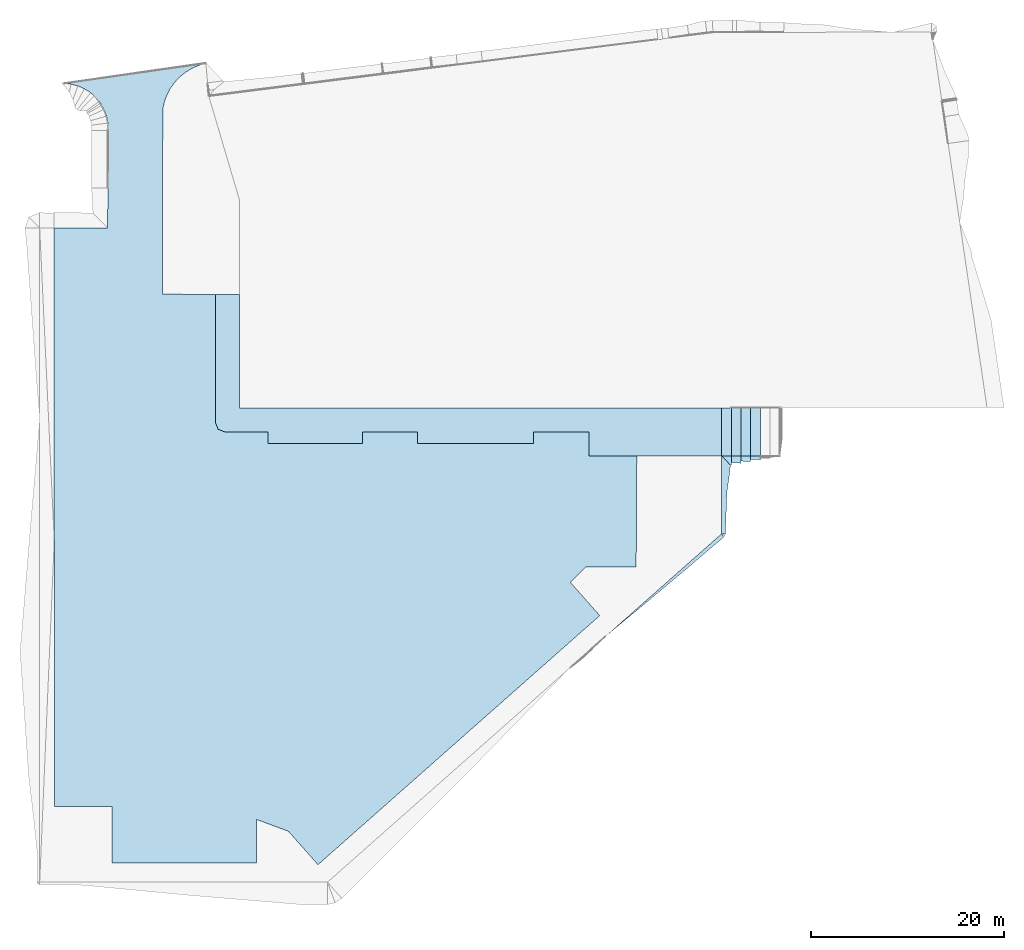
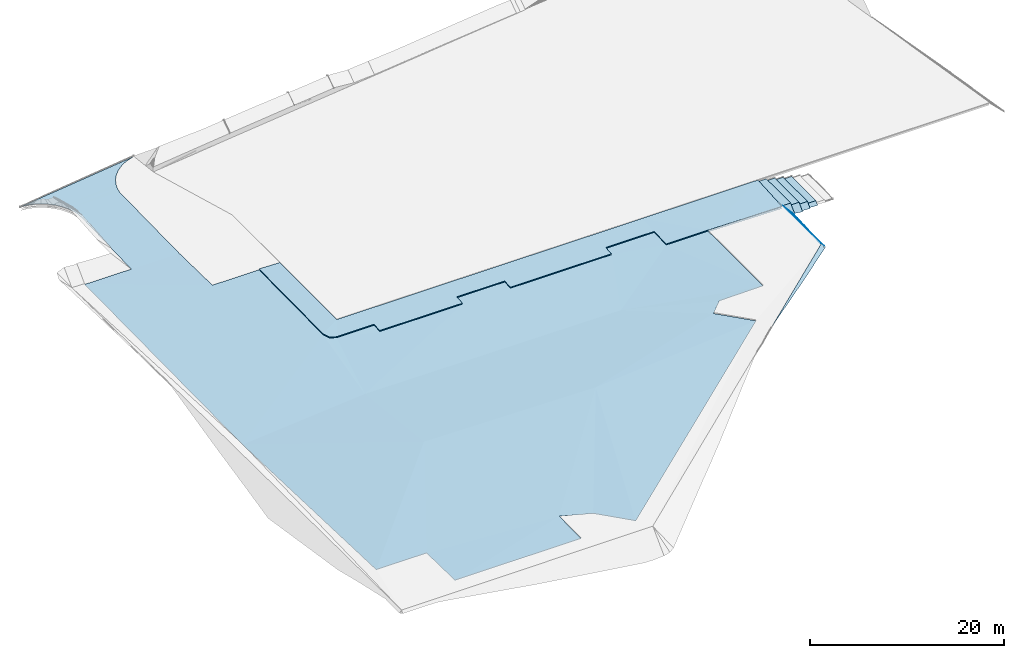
# One storey, part 2 of 14: 14 slabs.
"""IFC2X3 building model written with IfcOpenShell, lengths in metres."""

import ifcopenshell
import ifcopenshell.guid

model = None  # the IFC model being written
_history = None  # IfcOwnerHistory: only IFC2X3 demands one
_inside = {}  # id of a spatial element -> (the spatial element, [elements in it])
_under = {}  # id of a project, library or spatial element -> (it, [spatial elements below it])
_declared = {}  # id of a project -> (the project, [libraries it declares])
_typed = {}  # id of a type object -> (the type object, [elements of that type])
_made_of = {}  # id of a material, layer set ... -> (it, [elements and type objects made of it])


def new_model(schema):
    """Start an empty IFC model of exactly this schema.

    Asked for "IFC4X3", IfcOpenShell would pick the latest addendum, in which some entities
    have other attributes; the version numbers below select the first issue.
    IFC2X3 requires an IfcOwnerHistory on every rooted entity: one is made here for all.
    """
    global model, _history
    if schema == "IFC4X3":
        model = ifcopenshell.file(schema_version=(4, 3, 0, 0))
    else:
        model = ifcopenshell.file(schema=schema)
    _inside.clear()
    _under.clear()
    _declared.clear()
    _typed.clear()
    _made_of.clear()
    _history = None
    if model.schema == "IFC2X3":
        org = make("IfcOrganization", Name="unknown")
        user = make(
            "IfcPersonAndOrganization",
            ThePerson=make("IfcPerson", FamilyName="unknown"),
            TheOrganization=org,
        )
        app = make(
            "IfcApplication",
            ApplicationDeveloper=org,
            Version="unknown",
            ApplicationFullName="unknown",
            ApplicationIdentifier="unknown",
        )
        _history = make(
            "IfcOwnerHistory",
            OwningUser=user,
            OwningApplication=app,
            ChangeAction="ADDED",
            CreationDate=0,
        )
    return model


def make(cls, **values):
    """One entity of the class cls with the attributes given. An attribute that is None is left unset."""
    return model.create_entity(
        cls, **{name: value for name, value in values.items() if value is not None}
    )


def rooted(cls, **values):
    """An entity with a GlobalId (a new one), such as an element, a storey or a relation."""
    return make(cls, GlobalId=ifcopenshell.guid.new(), OwnerHistory=_history, **values)


def si_unit(unit_type, name, prefix=None):
    """IfcSIUnit, for example si_unit("LENGTHUNIT", "METRE", prefix="MILLI")."""
    return make("IfcSIUnit", UnitType=unit_type, Prefix=prefix, Name=name)


def assignment(units):
    """IfcUnitAssignment: the units of a project."""
    return None if units is None else make("IfcUnitAssignment", Units=units)


def point(xyz):
    """IfcCartesianPoint."""
    return None if xyz is None else make("IfcCartesianPoint", Coordinates=xyz)


def direction(xyz):
    """IfcDirection."""
    return None if xyz is None else make("IfcDirection", DirectionRatios=xyz)


def frame(location, z_axis=None, x_axis=None):
    """IfcAxis2Placement3D, a coordinate frame: its origin and axes. An axis left out is left unset."""
    return make(
        "IfcAxis2Placement3D",
        Location=point(location),
        Axis=direction(z_axis),
        RefDirection=direction(x_axis),
    )


def origin():
    """The frame at (0, 0, 0) with its axes left unset."""
    return frame((0.0, 0.0, 0.0))


def origin_with_axes():
    """The frame at (0, 0, 0) with the z axis (0, 0, 1) and the x axis (1, 0, 0) written out."""
    return frame((0.0, 0.0, 0.0), z_axis=(0.0, 0.0, 1.0), x_axis=(1.0, 0.0, 0.0))


def place(relative_to, where):
    """IfcLocalPlacement: puts the frame where relative to a parent placement (None: the world)."""
    return make(
        "IfcLocalPlacement", PlacementRelTo=relative_to, RelativePlacement=where
    )


def context(
    kind, dimensions, precision=None, world=None, true_north=None, identifier=None
):
    """IfcGeometricRepresentationContext, for example the 3D "Model" context."""
    return make(
        "IfcGeometricRepresentationContext",
        ContextIdentifier=identifier,
        ContextType=kind,
        CoordinateSpaceDimension=dimensions,
        Precision=precision,
        WorldCoordinateSystem=world,
        TrueNorth=true_north,
    )


def subcontext(parent, identifier, kind, view, scale=None):
    """IfcGeometricRepresentationSubContext, for example "Body" below "Model"."""
    return make(
        "IfcGeometricRepresentationSubContext",
        ContextIdentifier=identifier,
        ContextType=kind,
        ParentContext=parent,
        TargetScale=scale,
        TargetView=view,
    )


def project(units=None, contexts=None):
    """IfcProject with its units and contexts."""
    return rooted(
        "IfcProject",
        Name="project",
        RepresentationContexts=contexts,
        UnitsInContext=assignment(units),
    )


def spatial(cls, under=None, at=None, **own):
    """A site, building, storey or space (cls), placed at a placement, below another one or the project."""
    s = rooted(cls, ObjectPlacement=at, **own)
    if under is not None:
        _under.setdefault(under.id(), (under, []))[1].append(s)
    return s


def faces_of(points, faces, orient=None, outer=None):
    """IfcFace entities. A face is a list of loops; a loop is a list of indices into points, from 0.

    orient and outer hold one flag for each loop. By default every Orientation is true, the
    first loop of a face is its IfcFaceOuterBound and the others are IfcFaceBound.
    """
    made = []
    for i, loops in enumerate(faces):
        bounds = []
        for j, loop in enumerate(loops):
            is_outer = j == 0 if outer is None else outer[i][j]
            bounds.append(
                make(
                    "IfcFaceOuterBound" if is_outer else "IfcFaceBound",
                    Bound=make("IfcPolyLoop", Polygon=[points[k] for k in loop]),
                    Orientation=True if orient is None else orient[i][j],
                )
            )
        made.append(make("IfcFace", Bounds=bounds))
    return made


def faceted_brep(points, faces, orient=None, outer=None, voids=None):
    """IfcFacetedBrep: a solid bounded by flat faces; with voids (closed shells), ...WithVoids."""
    shared = [point(p) for p in points]
    hull = make("IfcClosedShell", CfsFaces=faces_of(shared, faces, orient, outer))
    if voids is None:
        return make("IfcFacetedBrep", Outer=hull)
    return make(
        "IfcFacetedBrepWithVoids",
        Outer=hull,
        Voids=[
            make(cls, CfsFaces=faces_of(shared, fs, o, b)) for cls, fs, o, b in voids
        ],
    )


def shape(context_of_items, identifier, shape_type, items):
    """IfcShapeRepresentation: the items that make up one representation, for example the "Body"."""
    return make(
        "IfcShapeRepresentation",
        ContextOfItems=context_of_items,
        RepresentationIdentifier=identifier,
        RepresentationType=shape_type,
        Items=items,
    )


def made_of(thing, what):
    """Note that an element or type object is made of a material, layer set ...; save() writes the relation."""
    if what is not None:
        _made_of.setdefault(what.id(), (what, []))[1].append(thing)
    return thing


def element(
    cls,
    number,
    at=None,
    inside=None,
    cuts=None,
    type_object=None,
    material=None,
    context=None,
    identifier="Body",
    shape_type=None,
    held_by="IfcProductDefinitionShape",
    body=None,
    shapes=None,
    **own,
):
    """One element of the class cls, such as IfcWall. Its Tag is "e" and its number.

    at: its placement. inside: the storey or other place that contains it. cuts: it is an
    opening in that element (IfcRelVoidsElement). A single representation is given by context,
    identifier, shape_type and body (its items); several are given by shapes. held_by: the class
    of the entity that holds the representations. save() writes the other relations.
    """
    e = rooted(cls, Tag="e%d" % number, ObjectPlacement=at, **own)
    if body is not None:
        shapes = [shape(context, identifier, shape_type, body)]
    if shapes is not None:
        e.Representation = make(held_by, Representations=shapes)
    if inside is not None:
        _inside.setdefault(inside.id(), (inside, []))[1].append(e)
    if cuts is not None:
        rooted(
            "IfcRelVoidsElement", RelatingBuildingElement=cuts, RelatedOpeningElement=e
        )
    if type_object is not None:
        _typed.setdefault(type_object.id(), (type_object, []))[1].append(e)
    return made_of(e, material)


def aggregate(whole, parts):
    """IfcRelAggregates: a whole, such as a stair, and the parts it consists of."""
    return rooted("IfcRelAggregates", RelatingObject=whole, RelatedObjects=parts)


def save(model, path):
    """Write the relations noted so far, then the file.

    IfcRelAggregates (storeys below a building ...), IfcRelContainedInSpatialStructure (elements
    in a storey), IfcRelDefinesByType, IfcRelAssociatesMaterial and IfcRelDeclares: one each for
    every whole, place, type object, material and project.
    """
    for whole, parts in _under.values():
        aggregate(whole, parts)
    for where, things in _inside.values():
        rooted(
            "IfcRelContainedInSpatialStructure",
            RelatedElements=things,
            RelatingStructure=where,
        )
    for kind, things in _typed.values():
        rooted("IfcRelDefinesByType", RelatedObjects=things, RelatingType=kind)
    for what, things in _made_of.values():
        rooted("IfcRelAssociatesMaterial", RelatedObjects=things, RelatingMaterial=what)
    for by, libraries in _declared.values():
        rooted("IfcRelDeclares", RelatingContext=by, RelatedDefinitions=libraries)
    model.write(path)


model = new_model("IFC2X3")

# Units and contexts
context_of_model = context(None, 3, world=origin_with_axes())
sub_context = subcontext(context_of_model, None, None, "MODEL_VIEW")
ifc_project = project(units=[si_unit("LENGTHUNIT", "METRE"), si_unit("AREAUNIT", "SQUARE_METRE"), si_unit("VOLUMEUNIT", "CUBIC_METRE"), si_unit("PLANEANGLEUNIT", "RADIAN"), si_unit("MASSUNIT", "GRAM", prefix="KILO")])

# Site, building, storey
site_placement = place(None, origin_with_axes())
site = spatial("IfcSite", under=ifc_project, at=site_placement, Name="Site.1", CompositionType="ELEMENT")
building_placement = place(site_placement, origin())
building = spatial("IfcBuilding", under=site, at=building_placement, Name="Building.1", CompositionType="ELEMENT")
storey_placement = place(building_placement, origin())
storey = spatial("IfcBuildingStorey", under=building, at=storey_placement, Name="VRD", CompositionType="ELEMENT")

# Slabs
slab_1_placement = place(storey_placement, origin())
element("IfcSlab", 1, at=slab_1_placement, inside=storey, Name="PJ FINI n°2", PredefinedType="USERDEFINED", context=sub_context, shape_type="Brep", body=[
    faceted_brep([(-6.758434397, -26.892042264, 0.562221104), (-22.314534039, -43.995937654, 0.28), (-22.314534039, -16.435937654, -0.7), (-5.615808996, -4.155500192, -0.2), (-5.323119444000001, -4.863253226, -0.25), (-6.946675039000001, -15.037949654, -0.545686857), (23.557774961, -14.875221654, -0.8), (31.185465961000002, -20.725937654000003, -0.35), (13.467860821, -27.187748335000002, 0.5), (34.245465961, -24.185937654, -0.25), (-1.334534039, -45.325937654, 0.5), (-16.334534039, -49.825937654, 0.4), (-16.334534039, -43.995937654, 0.28), (-11.097854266, 9.133948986, -0.1), (9.665465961, -6.364934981, -0.35), (-0.158671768, -6.355126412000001, -0.35), (-4.615534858, -5.156349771, -0.3), (15.362768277, -6.350865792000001, -0.35), (-5.572275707, 9.122153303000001, -0.1), (-1.334534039, -49.825937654, 0.4), (27.362441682, -6.347571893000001, -0.35), (33.119516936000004, -7.645794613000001, -0.35), (-0.159001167, -5.155126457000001, -0.3), (9.665133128, -5.152429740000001, -0.3), (15.362438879, -5.150865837, -0.3), (1.965465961, -46.555937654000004, 0.4), (-22.324534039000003, 16.004062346, -0.25), (-16.781392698, 15.983917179, -0.25), (-11.059491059, 28.315552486, -0.05), (-16.892353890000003, 27.606789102, -0.03), (-17.155672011, 28.304106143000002, -0.02), (-16.743708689, 26.876383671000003, -0.04), (-10.895627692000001, 29.066939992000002, -0.046471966), (-17.526911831, 28.950456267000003, -0.01), (-21.329879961, 30.971171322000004, 0.05), (-7.339867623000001, 32.846172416, -0.021775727), (-20.587365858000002, 30.905900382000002, 0.04), (-18.552560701, 30.025700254, 0.01), (-19.180673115, 30.427025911, 0.02), (-9.299906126, 31.655909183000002, -0.03235983), (-19.864788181, 30.722955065, 0.03), (-8.04496591, 32.539136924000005, -0.025303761), (-8.702302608, 32.139959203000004, -0.028831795), (-17.996555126, 29.529267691, 0.0), (-10.632085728, 29.789421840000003, -0.042943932), (-16.713547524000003, 26.131616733, -0.05), (-11.084177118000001, 15.972522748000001, -0.25), (-10.273664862, 30.469839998, -0.039415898), (-9.826892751, 31.095802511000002, -0.035887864), (-6.599849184, 33.055473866, -0.018247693), (5.025465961, -50.015937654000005, 0.5), (32.776124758, -19.145097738, -0.320026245), (38.015401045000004, -19.145097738, -0.25), (38.079742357, -7.649449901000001, -0.35), (33.118830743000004, -5.145991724, -0.3), (27.362112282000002, -5.147571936, -0.3)], [[[0, 1, 2]], [[3, 4, 5]], [[6, 7, 8]], [[9, 8, 7]], [[10, 11, 12]], [[13, 3, 2]], [[14, 5, 15]], [[5, 16, 15]], [[17, 6, 14]], [[6, 5, 14]], [[1, 0, 12]], [[3, 13, 18]], [[12, 0, 10]], [[11, 10, 19]], [[20, 21, 6]], [[0, 2, 5]], [[8, 10, 0]], [[5, 6, 8]], [[15, 16, 22]], [[23, 24, 17]], [[20, 6, 17]], [[17, 14, 23]], [[8, 25, 10]], [[5, 8, 0]], [[13, 26, 27]], [[28, 29, 30]], [[29, 28, 31]], [[32, 30, 33]], [[34, 35, 36]], [[37, 38, 39]], [[40, 36, 41]], [[42, 38, 40]], [[43, 44, 33]], [[27, 45, 46]], [[13, 27, 46]], [[28, 30, 32]], [[33, 44, 32]], [[44, 43, 47]], [[48, 37, 39]], [[48, 47, 37]], [[40, 41, 42]], [[34, 49, 35]], [[36, 35, 41]], [[39, 38, 42]], [[31, 28, 45]], [[26, 13, 2]], [[16, 5, 4]], [[25, 8, 50]], [[3, 5, 2]], [[51, 7, 6]], [[6, 52, 51]], [[52, 21, 53]], [[54, 20, 55]], [[20, 54, 21]], [[52, 6, 21]], [[50, 8, 9]], [[28, 46, 45]], [[43, 37, 47]]]),
])
slab_2_placement = place(storey_placement, origin())
element("IfcSlab", 2, at=slab_2_placement, inside=storey, Name="PJ FINI n°3 (Enrobés)", PredefinedType="USERDEFINED", context=sub_context, shape_type="Brep", body=[
    faceted_brep([(-3.114534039, -2.655937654, -0.05), (-5.615808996, -4.155500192, -0.08), (-5.572275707, 9.122153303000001, 0.02), (-3.114534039, -2.655937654, -0.09), (-5.615808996, -4.155500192, -0.12), (-5.572275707, 9.122153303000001, -0.02), (-4.615534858, -5.156349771, -0.18), (-4.615534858, -5.156349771, -0.22), (-3.104534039, 9.114062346, -0.05), (-3.104534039, 9.114062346, -0.09), (-0.159001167, -5.155126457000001, -0.18), (-0.159001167, -5.155126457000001, -0.22), (-5.323119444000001, -4.863253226, -0.13), (-5.323119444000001, -4.863253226, -0.17), (9.665133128, -5.152429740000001, -0.18), (-0.158671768, -6.355126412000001, -0.23), (9.665133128, -5.152429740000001, -0.22), (-0.158671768, -6.355126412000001, -0.27), (15.362438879, -5.150865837, -0.18), (9.664446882, -2.652429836, -0.05), (15.362438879, -5.150865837, -0.22), (9.664446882, -2.652429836, -0.09), (9.665465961, -6.364934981, -0.23), (9.665465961, -6.364934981, -0.27), (15.361752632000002, -2.650865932, -0.05), (27.361429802, -2.661293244, -0.05), (15.361752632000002, -2.650865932, -0.09), (27.361429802, -2.661293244, -0.09), (27.362112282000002, -5.147571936, -0.18), (15.362768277, -6.350865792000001, -0.23), (27.362112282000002, -5.147571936, -0.22), (15.362768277, -6.350865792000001, -0.27), (46.881781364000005, -2.655934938, -0.05), (46.881781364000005, -7.655936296, -0.35), (38.079742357, -7.649449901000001, -0.23), (46.881781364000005, -2.655934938, -0.09), (46.881781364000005, -7.655936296, -0.39), (38.079742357, -7.649449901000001, -0.27), (33.118830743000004, -5.145991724, -0.18), (33.118830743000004, -5.145991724, -0.22), (27.362441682, -6.347571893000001, -0.23), (27.362441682, -6.347571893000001, -0.27), (33.118148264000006, -2.659713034, -0.05), (33.118148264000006, -2.659713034, -0.09), (33.119516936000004, -7.645794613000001, -0.23), (33.119516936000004, -7.645794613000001, -0.27)], [[[0, 1, 2]], [[3, 4, 5]], [[1, 0, 6]], [[4, 3, 7]], [[0, 2, 8]], [[3, 5, 9]], [[10, 6, 0]], [[11, 7, 3]], [[6, 12, 1]], [[7, 13, 4]], [[14, 15, 10]], [[16, 17, 11]], [[18, 14, 19]], [[20, 16, 21]], [[10, 19, 14]], [[11, 21, 16]], [[14, 22, 15]], [[16, 23, 17]], [[0, 19, 10]], [[3, 21, 11]], [[18, 24, 25]], [[20, 26, 27]], [[18, 19, 24]], [[20, 21, 26]], [[28, 29, 18]], [[30, 31, 20]], [[32, 33, 34]], [[35, 36, 37]], [[28, 25, 38]], [[30, 27, 39]], [[40, 29, 28]], [[41, 31, 30]], [[25, 42, 38]], [[27, 43, 39]], [[28, 18, 25]], [[30, 20, 27]], [[38, 34, 44]], [[39, 37, 45]], [[34, 42, 32]], [[37, 43, 35]], [[34, 38, 42]], [[37, 39, 43]]], orient=[[True], [False], [True], [False], [True], [False], [True], [False], [True], [False], [True], [False], [True], [False], [True], [False], [True], [False], [True], [False], [True], [False], [True], [False], [True], [False], [True], [False], [True], [False], [True], [False], [True], [False], [True], [False], [True], [False], [True], [False], [True], [False]]),
])
slab_3_placement = place(storey_placement, origin())
element("IfcSlab", 3, at=slab_3_placement, inside=storey, Name="PJ FINI n°3 (Tout venant 0/31.5)", PredefinedType="USERDEFINED", context=sub_context, shape_type="Brep", body=[
    faceted_brep([(-3.114534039, -2.655937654, -0.09), (-5.615808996, -4.155500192, -0.12), (-5.572275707, 9.122153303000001, -0.02), (-3.114534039, -2.655937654, -0.29), (-5.615808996, -4.155500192, -0.32), (-5.572275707, 9.122153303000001, -0.22), (-4.615534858, -5.156349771, -0.22), (-4.615534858, -5.156349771, -0.42), (-3.104534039, 9.114062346, -0.09), (-3.104534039, 9.114062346, -0.29), (-0.159001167, -5.155126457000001, -0.22), (-0.159001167, -5.155126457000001, -0.42), (-5.323119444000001, -4.863253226, -0.17), (-5.323119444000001, -4.863253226, -0.37), (9.665133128, -5.152429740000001, -0.22), (-0.158671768, -6.355126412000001, -0.27), (9.665133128, -5.152429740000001, -0.42), (-0.158671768, -6.355126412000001, -0.47), (15.362438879, -5.150865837, -0.22), (9.664446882, -2.652429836, -0.09), (15.362438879, -5.150865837, -0.42), (9.664446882, -2.652429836, -0.29), (9.665465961, -6.364934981, -0.27), (9.665465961, -6.364934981, -0.47), (15.361752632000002, -2.650865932, -0.09), (27.361429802, -2.661293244, -0.09), (15.361752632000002, -2.650865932, -0.29), (27.361429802, -2.661293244, -0.29), (27.362112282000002, -5.147571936, -0.22), (15.362768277, -6.350865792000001, -0.27), (27.362112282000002, -5.147571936, -0.42), (15.362768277, -6.350865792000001, -0.47), (46.881781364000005, -2.655934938, -0.09), (46.881781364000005, -7.655936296, -0.39), (38.079742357, -7.649449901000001, -0.27), (46.881781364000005, -2.655934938, -0.29), (46.881781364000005, -7.655936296, -0.59), (38.079742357, -7.649449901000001, -0.47), (33.118830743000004, -5.145991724, -0.22), (33.118830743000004, -5.145991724, -0.42), (27.362441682, -6.347571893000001, -0.27), (27.362441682, -6.347571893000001, -0.47), (33.118148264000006, -2.659713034, -0.09), (33.118148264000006, -2.659713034, -0.29), (33.119516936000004, -7.645794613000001, -0.27), (33.119516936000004, -7.645794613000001, -0.47)], [[[0, 1, 2]], [[3, 4, 5]], [[1, 0, 6]], [[4, 3, 7]], [[0, 2, 8]], [[3, 5, 9]], [[10, 6, 0]], [[11, 7, 3]], [[6, 12, 1]], [[7, 13, 4]], [[14, 15, 10]], [[16, 17, 11]], [[18, 14, 19]], [[20, 16, 21]], [[10, 19, 14]], [[11, 21, 16]], [[14, 22, 15]], [[16, 23, 17]], [[0, 19, 10]], [[3, 21, 11]], [[18, 24, 25]], [[20, 26, 27]], [[18, 19, 24]], [[20, 21, 26]], [[28, 29, 18]], [[30, 31, 20]], [[32, 33, 34]], [[35, 36, 37]], [[28, 25, 38]], [[30, 27, 39]], [[40, 29, 28]], [[41, 31, 30]], [[25, 42, 38]], [[27, 43, 39]], [[28, 18, 25]], [[30, 20, 27]], [[38, 34, 44]], [[39, 37, 45]], [[34, 42, 32]], [[37, 43, 35]], [[34, 38, 42]], [[37, 39, 43]]], orient=[[True], [False], [True], [False], [True], [False], [True], [False], [True], [False], [True], [False], [True], [False], [True], [False], [True], [False], [True], [False], [True], [False], [True], [False], [True], [False], [True], [False], [True], [False], [True], [False], [True], [False], [True], [False], [True], [False], [True], [False], [True], [False]]),
])
slab_4_placement = place(storey_placement, origin())
element("IfcSlab", 4, at=slab_4_placement, inside=storey, Name="PJ FINI n°3", PredefinedType="USERDEFINED", context=sub_context, shape_type="Brep", body=[
    faceted_brep([(-3.114534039, -2.655937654, -0.05), (-5.615808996, -4.155500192, -0.08), (-5.572275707, 9.122153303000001, 0.02), (-4.615534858, -5.156349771, -0.18), (-3.104534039, 9.114062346, -0.05), (-0.159001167, -5.155126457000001, -0.18), (-5.323119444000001, -4.863253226, -0.13), (9.665133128, -5.152429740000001, -0.18), (-0.158671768, -6.355126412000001, -0.23), (15.362438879, -5.150865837, -0.18), (9.664446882, -2.652429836, -0.05), (9.665465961, -6.364934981, -0.23), (15.361752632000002, -2.650865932, -0.05), (27.361429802, -2.661293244, -0.05), (27.362112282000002, -5.147571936, -0.18), (15.362768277, -6.350865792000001, -0.23), (46.881781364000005, -2.655934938, -0.05), (46.881781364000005, -7.655936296, -0.35), (38.079742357, -7.649449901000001, -0.23), (33.118830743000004, -5.145991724, -0.18), (27.362441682, -6.347571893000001, -0.23), (33.118148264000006, -2.659713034, -0.05), (33.119516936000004, -7.645794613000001, -0.23)], [[[0, 1, 2]], [[1, 0, 3]], [[0, 2, 4]], [[5, 3, 0]], [[3, 6, 1]], [[7, 8, 5]], [[9, 7, 10]], [[5, 10, 7]], [[7, 11, 8]], [[0, 10, 5]], [[9, 12, 13]], [[9, 10, 12]], [[14, 15, 9]], [[16, 17, 18]], [[14, 13, 19]], [[20, 15, 14]], [[13, 21, 19]], [[14, 9, 13]], [[19, 18, 22]], [[18, 21, 16]], [[18, 19, 21]]]),
])
slab_5_placement = place(storey_placement, origin())
element("IfcSlab", 5, at=slab_5_placement, inside=storey, Name="PJ FINI n°27", PredefinedType="USERDEFINED", context=sub_context, shape_type="Brep", body=[
    faceted_brep([(48.881781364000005, -8.175709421, -1.269774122), (48.881781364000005, -7.655936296, -0.750000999), (49.881781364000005, -7.995787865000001, -1.089852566), (49.881781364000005, -8.214980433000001, -1.309045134), (49.881781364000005, -7.655936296, -0.750000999)], [[[0, 1, 2]], [[3, 0, 2]], [[1, 4, 2]]]),
])
slab_6_placement = place(storey_placement, origin())
element("IfcSlab", 6, at=slab_6_placement, inside=storey, Name="PJ FINI n°37", PredefinedType="USERDEFINED", context=sub_context, shape_type="Brep", body=[
    faceted_brep([(46.836556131, -15.736177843, -0.130001), (47.427200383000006, -11.410315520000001, -0.75), (47.268844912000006, -15.73859737, -0.562296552), (47.700414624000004, -9.459284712, -1.036454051), (46.881781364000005, -7.655936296, -0.230001), (47.766556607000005, -8.545677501, -1.108792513), (47.797029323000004, -8.576321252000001, -1.139059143)], [[[0, 1, 2]], [[3, 1, 4]], [[4, 5, 3]], [[3, 5, 6]], [[4, 1, 0]]]),
])
slab_7_placement = place(storey_placement, origin())
element("IfcSlab", 7, at=slab_7_placement, inside=storey, Name="PJ FINI n°83", PredefinedType="USERDEFINED", context=sub_context, shape_type="Brep", body=[
    faceted_brep([(46.881781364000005, -2.655934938, -0.249999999), (47.881781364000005, -7.655936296, -0.249999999), (46.881781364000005, -7.655936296, -0.249999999), (47.881781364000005, -2.655934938, -0.249999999)], [[[0, 1, 2]], [[0, 3, 1]]]),
])
slab_8_placement = place(storey_placement, origin())
element("IfcSlab", 8, at=slab_8_placement, inside=storey, Name="PJ FINI n°84", PredefinedType="USERDEFINED", context=sub_context, shape_type="Brep", body=[
    faceted_brep([(47.881781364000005, -2.655934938, -0.499999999), (48.881781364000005, -7.655936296, -0.499999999), (47.881781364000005, -7.655936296, -0.499999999), (48.881781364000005, -2.655934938, -0.499999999)], [[[0, 1, 2]], [[1, 0, 3]]]),
])
slab_9_placement = place(storey_placement, origin())
element("IfcSlab", 9, at=slab_9_placement, inside=storey, Name="PJ FINI n°85", PredefinedType="USERDEFINED", context=sub_context, shape_type="Brep", body=[
    faceted_brep([(49.881781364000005, -7.655936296, -0.749999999), (48.881781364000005, -7.655936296, -0.749999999), (49.881781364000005, -2.655934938, -0.749999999), (48.881781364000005, -2.655934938, -0.749999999)], [[[0, 1, 2]], [[1, 3, 2]]]),
])
slab_10_placement = place(storey_placement, origin())
element("IfcSlab", 10, at=slab_10_placement, inside=storey, Name="PJ FINI n°86", PredefinedType="USERDEFINED", context=sub_context, shape_type="Brep", body=[
    faceted_brep([(50.881781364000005, -7.655936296, -0.999999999), (49.881781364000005, -7.655936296, -0.999999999), (50.881781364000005, -2.655934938, -0.999999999), (49.881781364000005, -2.655934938, -0.999999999)], [[[0, 1, 2]], [[2, 1, 3]]]),
])
slab_11_placement = place(storey_placement, origin())
element("IfcSlab", 11, at=slab_11_placement, inside=storey, Name="PJ FINI n°49", PredefinedType="USERDEFINED", context=sub_context, shape_type="Brep", body=[
    faceted_brep([(48.598770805, -8.383787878, -1.227852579), (47.881781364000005, -8.328677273, -1.172741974), (47.881781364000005, -7.655936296, -0.500000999), (48.881781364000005, -7.655936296, -0.500000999), (48.881781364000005, -8.394901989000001, -1.23896669), (48.881781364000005, -8.175709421, -1.019774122)], [[[0, 1, 2]], [[0, 2, 3]], [[4, 0, 5]], [[5, 0, 3]]]),
])
slab_12_placement = place(storey_placement, origin())
element("IfcSlab", 12, at=slab_12_placement, inside=storey, Name="PJ FINI n°50", PredefinedType="USERDEFINED", context=sub_context, shape_type="Brep", body=[
    faceted_brep([(46.836556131, -15.736177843, -0.130001), (43.100764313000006, -19.457151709, -0.371231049), (38.611183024, -23.215892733, -0.13340438), (34.866858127, -26.316996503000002, 0.089884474), (47.112654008, -16.0485174, -0.546877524), (45.806501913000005, -17.147757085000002, -0.481913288)], [[[0, 1, 2]], [[2, 3, 0]], [[4, 5, 0]], [[0, 5, 1]]]),
])
slab_13_placement = place(storey_placement, origin())
element("IfcSlab", 13, at=slab_13_placement, inside=storey, Name="PJ FINI n°58", PredefinedType="USERDEFINED", context=sub_context, shape_type="Brep", body=[
    faceted_brep([(46.881781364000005, -7.655936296, -0.250000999), (47.881781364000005, -7.655936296, -0.250000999), (47.881781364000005, -8.328677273, -0.922741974), (47.766556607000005, -8.545677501, -1.139742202), (47.881781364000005, -8.554534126, -1.148598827)], [[[0, 1, 2]], [[3, 0, 2]], [[4, 3, 2]]]),
])
slab_14_placement = place(storey_placement, origin())
element("IfcSlab", 14, at=slab_14_placement, inside=storey, Name="PJ FINI n°93", PredefinedType="USERDEFINED", context=sub_context, shape_type="Brep", body=[
    faceted_brep([(50.881781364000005, -7.815866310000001, -1.159931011), (49.881781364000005, -7.655936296, -1.000000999), (50.881781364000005, -7.655936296, -1.000000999), (50.881781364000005, -8.035058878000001, -1.379123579), (49.881781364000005, -7.995787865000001, -1.339852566)], [[[0, 1, 2]], [[0, 3, 4]], [[0, 4, 1]]]),
])

save(model, "model.ifc")
